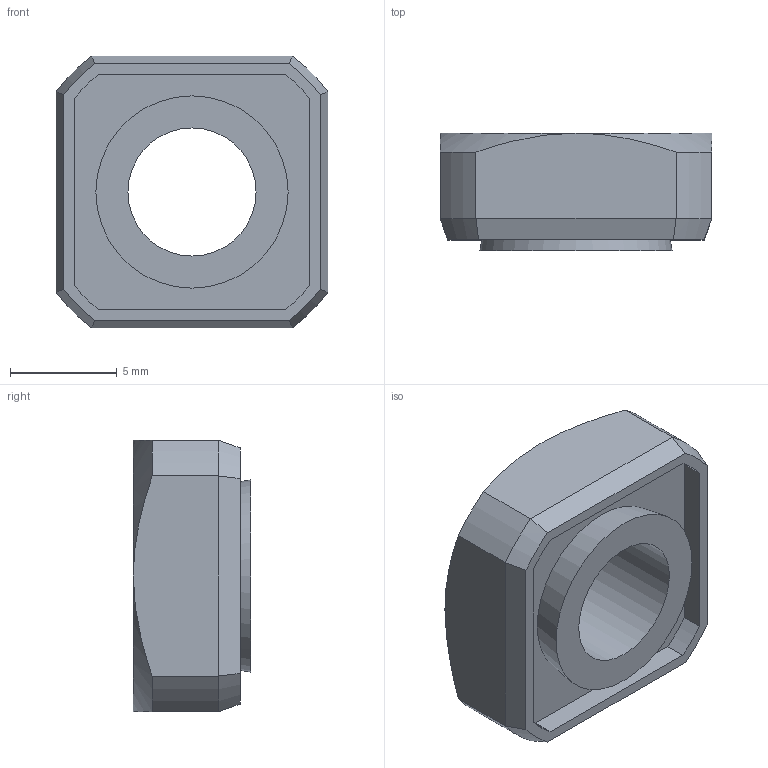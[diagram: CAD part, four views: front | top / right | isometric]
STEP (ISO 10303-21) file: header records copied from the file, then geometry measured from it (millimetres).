
FILE_DESCRIPTION(/* description */ (''),/* implementation_level */ '2;1');
FILE_NAME(/* name */ 'D:\Sukhmani\Fastit\KP Nut\KP 6-S.stp',/* time_stamp */ '2024-03-14T12:24:50+06:00',/* author */ ('edc.sukhmani'),/* organization */ (''),/* preprocessor_version */ 'ST-DEVELOPER v18.1',/* originating_system */ 'Autodesk Inventor 2022',/* authorisation */ '');
FILE_SCHEMA (('AUTOMOTIVE_DESIGN { 1 0 10303 214 3 1 1 }'));
Length unit declared in the file: millimetre
Products named in the file (1): KP 6-S
Bounding box: 12.72 x 5.5 x 12.72 mm (x, y, z)
Volume: 573.2 mm3; surface area: 650.1 mm2
Topology: 1 solids, 1 shells, 36 faces, 84 edges, 52 vertices
Faces by surface type: plane 16, cone 10, cylinder 10
Full cylindrical faces by diameter (mm): 6 x1, 7.25 x1
Entity records: 1055 total; most frequent: CARTESIAN_POINT 205, DIRECTION 174, ORIENTED_EDGE 168, EDGE_CURVE 84, AXIS2_PLACEMENT_3D 69, VERTEX_POINT 52, EDGE_LOOP 40, FACE_OUTER_BOUND 36
